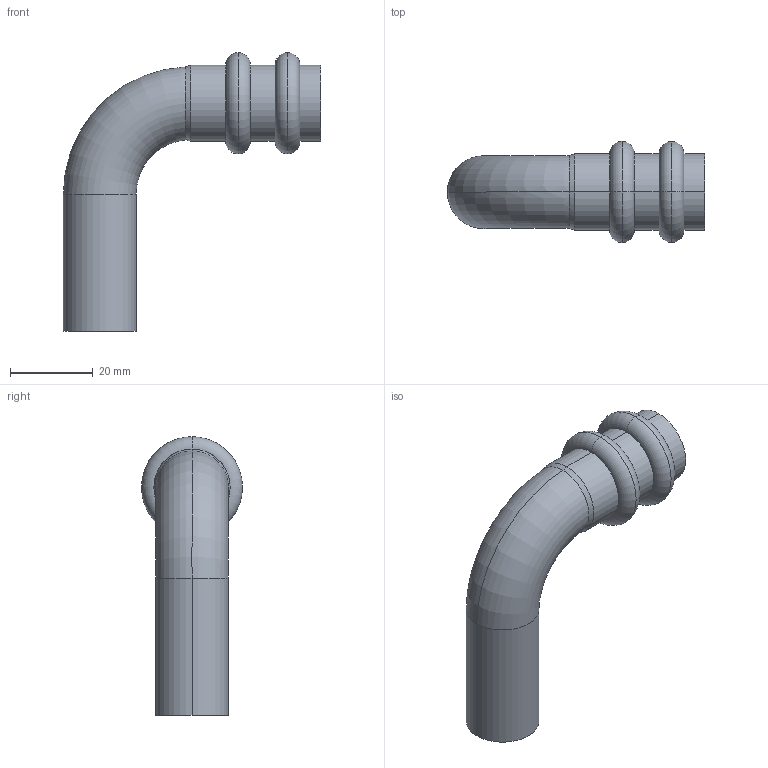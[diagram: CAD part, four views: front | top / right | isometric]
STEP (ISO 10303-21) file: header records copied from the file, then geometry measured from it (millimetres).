
FILE_DESCRIPTION(('starvars output'),'1');
FILE_NAME('cv20240422105009000011618.stp','10:50:11 2024/04/22',('Thomas Industrial Network Germany GmbH'),(' '),'Spatial InterOp 3D',' ',' ');
FILE_SCHEMA(('AUTOMOTIVE_DESIGN { 1 0 10303 214 3 1 1 }'));
Length unit declared in the file: millimetre
Products named in the file (1): 1
Bounding box: 62.31 x 24.5 x 67.5 mm (x, y, z)
Volume: 5557.2 mm3; surface area: 11998.3 mm2
Topology: 1 solids, 1 shells, 52 faces, 109 edges, 68 vertices
Faces by surface type: torus 20, cylinder 16, plane 12, cone 4
Entity records: 2111 total; most frequent: CARTESIAN_POINT 491, DIRECTION 288, ORIENTED_EDGE 218, AXIS2_PLACEMENT_3D 134, EDGE_CURVE 109, CIRCLE 81, VERTEX_POINT 68, EDGE_LOOP 63
